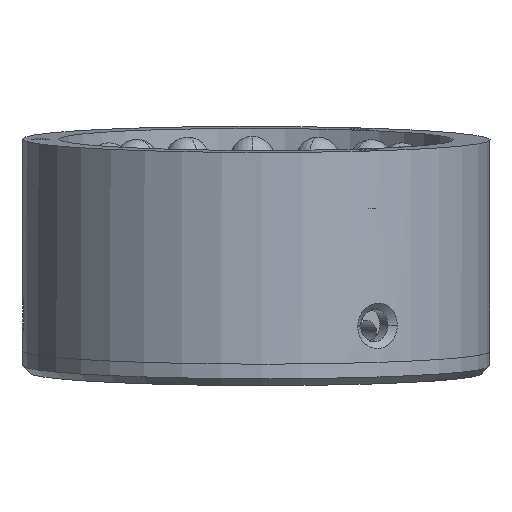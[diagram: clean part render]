
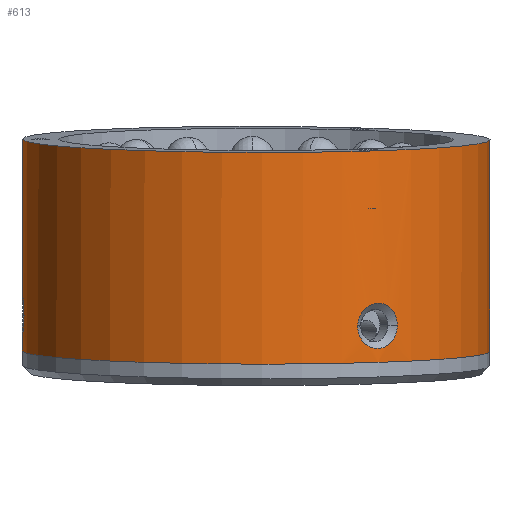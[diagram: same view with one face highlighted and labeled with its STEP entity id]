
A CAD part, left-side view. The second image highlights one B-rep face of the part: STEP entity #613.
In plain terms, the highlighted cylindrical face has radius 16 mm (diameter 32 mm), a partial arc.
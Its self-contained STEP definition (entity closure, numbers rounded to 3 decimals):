
#613=ADVANCED_FACE('NONE',(#1597,#1598),#1599,.T.);
#1597=FACE_OUTER_BOUND('',#3936,.T.);
#1598=FACE_BOUND('',#3937,.T.);
#1599=CYLINDRICAL_SURFACE('',#3938,16.0);
#3936=EDGE_LOOP('',(#6493,#6494,#6495,#6496,#6497,#6498,#6499));
#3937=EDGE_LOOP('',(#6500,#6501));
#3938=AXIS2_PLACEMENT_3D('',#6502,#6503,#6504);
#6493=ORIENTED_EDGE('',*,*,#10428,.F.);
#6494=ORIENTED_EDGE('',*,*,#10443,.T.);
#6495=ORIENTED_EDGE('',*,*,#10432,.T.);
#6496=ORIENTED_EDGE('',*,*,#10445,.F.);
#6497=ORIENTED_EDGE('',*,*,#10430,.F.);
#6498=ORIENTED_EDGE('',*,*,#10373,.T.);
#6499=ORIENTED_EDGE('',*,*,#10446,.T.);
#6500=ORIENTED_EDGE('',*,*,#10368,.T.);
#6501=ORIENTED_EDGE('',*,*,#10447,.T.);
#6502=CARTESIAN_POINT('',(0.0,0.0,0.0));
#6503=DIRECTION('',(0.0,1.0,0.0));
#6504=DIRECTION('',(0.0,0.0,-1.0));
#10368=EDGE_CURVE('NONE',#11939,#11937,#11940,.T.);
#10373=EDGE_CURVE('NONE',#11948,#11946,#11949,.T.);
#10428=EDGE_CURVE('NONE',#12036,#12038,#12039,.T.);
#10430=EDGE_CURVE('NONE',#11948,#12041,#12042,.T.);
#10432=EDGE_CURVE('NONE',#12045,#12043,#12046,.T.);
#10443=EDGE_CURVE('NONE',#12036,#12045,#12062,.T.);
#10445=EDGE_CURVE('NONE',#12041,#12043,#12064,.T.);
#10446=EDGE_CURVE('NONE',#11946,#12038,#12065,.T.);
#10447=EDGE_CURVE('NONE',#11937,#11939,#12066,.T.);
#11937=VERTEX_POINT('NONE',#14461);
#11939=VERTEX_POINT('NONE',#14464);
#11940=B_SPLINE_CURVE_WITH_KNOTS('',3,(#14465,#14466,#14467,#14468,#14469,#14470,#14471,#14472,#14473,#14474,#14475,#14476,#14477,#14478,#14479,#14480,#14481,#14482,#14483,#14484,#14485,#14486),.UNSPECIFIED.,.F.,.F.,(4,2,2,2,2,2,2,2,2,2,4),(0.0,0.063,0.125,0.188,0.25,0.281,0.313,0.375,0.438,0.469,0.5),.UNSPECIFIED.);
#11946=VERTEX_POINT('NONE',#14602);
#11948=VERTEX_POINT('NONE',#14605);
#11949=B_SPLINE_CURVE_WITH_KNOTS('',3,(#14606,#14607,#14608,#14609,#14610,#14611,#14612,#14613,#14614,#14615,#14616,#14617,#14618,#14619),.UNSPECIFIED.,.F.,.F.,(4,2,2,2,2,2,4),(0.25,0.281,0.313,0.375,0.438,0.469,0.5),.UNSPECIFIED.);
#12036=VERTEX_POINT('NONE',#14817);
#12038=VERTEX_POINT('NONE',#14819);
#12039=LINE('',#14820,#14821);
#12041=VERTEX_POINT('NONE',#14832);
#12042=LINE('',#14833,#14834);
#12043=VERTEX_POINT('NONE',#14835);
#12045=VERTEX_POINT('NONE',#14837);
#12046=LINE('',#14838,#14839);
#12062=CIRCLE('',#14907,16.0);
#12064=CIRCLE('',#14909,16.0);
#12065=B_SPLINE_CURVE_WITH_KNOTS('',3,(#14910,#14911,#14912,#14913,#14914,#14915,#14916,#14917,#14918,#14919,#14920,#14921,#14922,#14923),.UNSPECIFIED.,.F.,.F.,(4,2,2,2,2,2,4),(0.5,0.531,0.562,0.625,0.687,0.719,0.75),.UNSPECIFIED.);
#12066=B_SPLINE_CURVE_WITH_KNOTS('',3,(#14924,#14925,#14926,#14927,#14928,#14929,#14930,#14931,#14932,#14933,#14934,#14935,#14936,#14937,#14938,#14939,#14940,#14941,#14942,#14943,#14944,#14945),.UNSPECIFIED.,.F.,.F.,(4,2,2,2,2,2,2,2,2,2,4),(0.5,0.531,0.563,0.625,0.688,0.75,0.813,0.875,0.906,0.938,1.0),.UNSPECIFIED.);
#14461=CARTESIAN_POINT('',(-12.992,12.,-9.338));
#14464=CARTESIAN_POINT('',(-14.583,12.0,-6.583));
#14465=CARTESIAN_POINT('',(-14.583,12.0,-6.583));
#14466=CARTESIAN_POINT('',(-14.583,11.796,-6.583));
#14467=CARTESIAN_POINT('',(-14.566,11.594,-6.621));
#14468=CARTESIAN_POINT('',(-14.499,11.22,-6.766));
#14469=CARTESIAN_POINT('',(-14.449,11.048,-6.874));
#14470=CARTESIAN_POINT('',(-14.32,10.762,-7.139));
#14471=CARTESIAN_POINT('',(-14.24,10.647,-7.297));
#14472=CARTESIAN_POINT('',(-14.061,10.493,-7.636));
#14473=CARTESIAN_POINT('',(-13.961,10.452,-7.819));
#14474=CARTESIAN_POINT('',(-13.805,10.452,-8.09));
#14475=CARTESIAN_POINT('',(-13.751,10.462,-8.18));
#14476=CARTESIAN_POINT('',(-13.646,10.502,-8.355));
#14477=CARTESIAN_POINT('',(-13.594,10.531,-8.439));
#14478=CARTESIAN_POINT('',(-13.439,10.647,-8.685));
#14479=CARTESIAN_POINT('',(-13.343,10.761,-8.831));
#14480=CARTESIAN_POINT('',(-13.177,11.048,-9.077));
#14481=CARTESIAN_POINT('',(-13.109,11.22,-9.173));
#14482=CARTESIAN_POINT('',(-13.04,11.501,-9.271));
#14483=CARTESIAN_POINT('',(-13.022,11.597,-9.296));
#14484=CARTESIAN_POINT('',(-12.998,11.797,-9.33));
#14485=CARTESIAN_POINT('',(-12.992,11.899,-9.338));
#14486=CARTESIAN_POINT('',(-12.992,12.,-9.338));
#14602=CARTESIAN_POINT('',(-1.591,12.,15.921));
#14605=CARTESIAN_POINT('',(0.,10.452,16.));
#14606=CARTESIAN_POINT('',(0.,10.452,16.));
#14607=CARTESIAN_POINT('',(-0.104,10.452,16.0));
#14608=CARTESIAN_POINT('',(-0.209,10.462,15.999));
#14609=CARTESIAN_POINT('',(-0.413,10.502,15.995));
#14610=CARTESIAN_POINT('',(-0.512,10.531,15.992));
#14611=CARTESIAN_POINT('',(-0.802,10.648,15.981));
#14612=CARTESIAN_POINT('',(-0.977,10.762,15.971));
#14613=CARTESIAN_POINT('',(-1.272,11.049,15.95));
#14614=CARTESIAN_POINT('',(-1.39,11.22,15.94));
#14615=CARTESIAN_POINT('',(-1.509,11.501,15.929));
#14616=CARTESIAN_POINT('',(-1.539,11.597,15.926));
#14617=CARTESIAN_POINT('',(-1.58,11.797,15.922));
#14618=CARTESIAN_POINT('',(-1.591,11.899,15.921));
#14619=CARTESIAN_POINT('',(-1.591,12.,15.921));
#14817=CARTESIAN_POINT('',(0.,14.5,16.0));
#14819=CARTESIAN_POINT('',(0.,13.548,16.));
#14820=CARTESIAN_POINT('',(0.,0.0,16.0));
#14821=VECTOR('',#19880,1000.0);
#14832=CARTESIAN_POINT('',(0.,0.,16.0));
#14833=CARTESIAN_POINT('',(0.,0.0,16.0));
#14834=VECTOR('',#19881,1000.0);
#14835=CARTESIAN_POINT('',(0.0,0.,-16.0));
#14837=CARTESIAN_POINT('',(0.0,14.5,-16.0));
#14838=CARTESIAN_POINT('',(0.0,0.0,-16.0));
#14839=VECTOR('',#19885,1000.0);
#14907=AXIS2_PLACEMENT_3D('',#19899,#19900,#19901);
#14909=AXIS2_PLACEMENT_3D('',#19902,#19903,#19904);
#14910=CARTESIAN_POINT('',(-1.591,12.,15.921));
#14911=CARTESIAN_POINT('',(-1.591,12.102,15.921));
#14912=CARTESIAN_POINT('',(-1.58,12.203,15.922));
#14913=CARTESIAN_POINT('',(-1.539,12.403,15.926));
#14914=CARTESIAN_POINT('',(-1.509,12.499,15.929));
#14915=CARTESIAN_POINT('',(-1.39,12.78,15.94));
#14916=CARTESIAN_POINT('',(-1.272,12.951,15.95));
#14917=CARTESIAN_POINT('',(-0.977,13.239,15.971));
#14918=CARTESIAN_POINT('',(-0.802,13.352,15.981));
#14919=CARTESIAN_POINT('',(-0.512,13.469,15.992));
#14920=CARTESIAN_POINT('',(-0.413,13.498,15.995));
#14921=CARTESIAN_POINT('',(-0.209,13.538,15.999));
#14922=CARTESIAN_POINT('',(-0.104,13.548,16.0));
#14923=CARTESIAN_POINT('',(0.,13.548,16.));
#14924=CARTESIAN_POINT('',(-12.992,12.,-9.338));
#14925=CARTESIAN_POINT('',(-12.992,12.102,-9.338));
#14926=CARTESIAN_POINT('',(-12.999,12.204,-9.329));
#14927=CARTESIAN_POINT('',(-13.022,12.403,-9.296));
#14928=CARTESIAN_POINT('',(-13.04,12.499,-9.272));
#14929=CARTESIAN_POINT('',(-13.11,12.781,-9.173));
#14930=CARTESIAN_POINT('',(-13.177,12.952,-9.076));
#14931=CARTESIAN_POINT('',(-13.343,13.239,-8.831));
#14932=CARTESIAN_POINT('',(-13.44,13.353,-8.684));
#14933=CARTESIAN_POINT('',(-13.645,13.508,-8.358));
#14934=CARTESIAN_POINT('',(-13.753,13.548,-8.18));
#14935=CARTESIAN_POINT('',(-13.961,13.548,-7.819));
#14936=CARTESIAN_POINT('',(-14.062,13.507,-7.636));
#14937=CARTESIAN_POINT('',(-14.241,13.353,-7.297));
#14938=CARTESIAN_POINT('',(-14.32,13.238,-7.139));
#14939=CARTESIAN_POINT('',(-14.417,13.023,-6.94));
#14940=CARTESIAN_POINT('',(-14.446,12.944,-6.879));
#14941=CARTESIAN_POINT('',(-14.495,12.775,-6.774));
#14942=CARTESIAN_POINT('',(-14.516,12.687,-6.73));
#14943=CARTESIAN_POINT('',(-14.566,12.405,-6.62));
#14944=CARTESIAN_POINT('',(-14.583,12.203,-6.583));
#14945=CARTESIAN_POINT('',(-14.583,12.0,-6.583));
#19880=DIRECTION('',(0.0,-1.0,0.0));
#19881=DIRECTION('',(0.0,-1.0,0.0));
#19885=DIRECTION('',(0.0,-1.0,0.0));
#19899=CARTESIAN_POINT('',(0.0,14.5,0.0));
#19900=DIRECTION('',(0.0,-1.0,0.0));
#19901=DIRECTION('',(0.0,0.0,-1.0));
#19902=CARTESIAN_POINT('',(0.0,0.,0.0));
#19903=DIRECTION('',(0.0,-1.0,0.0));
#19904=DIRECTION('',(0.0,0.0,-1.0));
